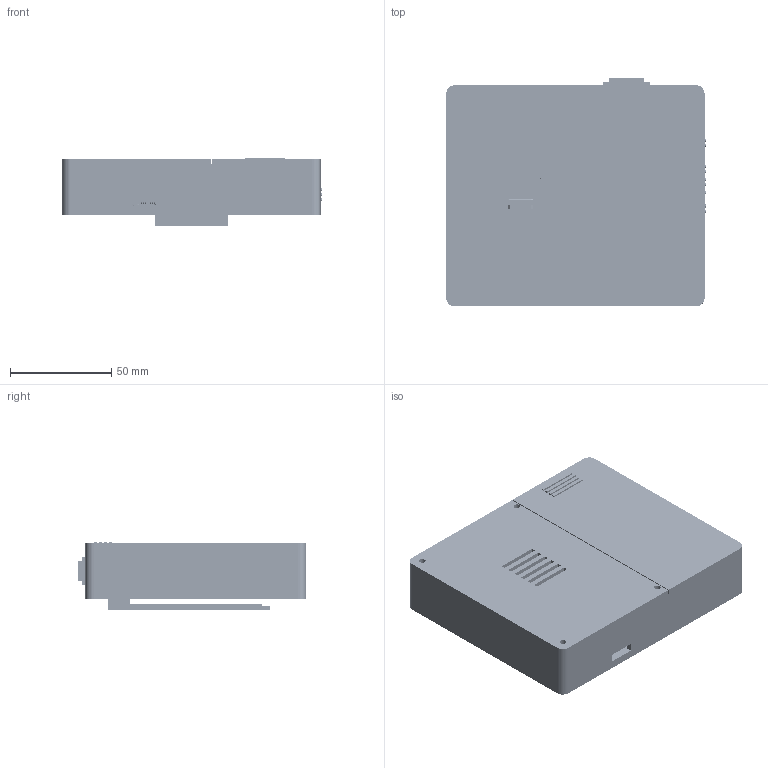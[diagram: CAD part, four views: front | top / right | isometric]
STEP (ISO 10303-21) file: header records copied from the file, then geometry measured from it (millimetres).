
FILE_DESCRIPTION(/* description */ (''),/* implementation_level */ '2;1');
FILE_NAME(/* name */ 'enclosure_full_assembly.step',/* time_stamp */ '2026-10-19T22:49:07+07:00',/* author */ (''),/* organization */ (''),/* preprocessor_version */ 'ST-DEVELOPER v20.2',/* originating_system */ 'Autodesk Translation Framework v15.15.0.0',/* authorisation */ '');
FILE_SCHEMA (('AUTOMOTIVE_DESIGN { 1 0 10303 214 3 1 1 }'));
Products named in the file (9): Raspberry Pi 4 Model B; Enclosure_Base; Enclosure_Pi_Lid; Battery_Snap_Door; Mockup_18650_Tray; Mockup_Switch; Mockup_2S_Charger; Mockup_HW298; Mockup_USB_Cable
Assembly tree (8 placements, depth 2):
  Raspberry Pi 4 Model B
    Enclosure_Base
    Enclosure_Pi_Lid
    Battery_Snap_Door
    Mockup_18650_Tray
    Mockup_Switch
    Mockup_2S_Charger
    Mockup_HW298
    Mockup_USB_Cable
Bounding box: 128.1 x 112.8 x 33.8 mm (x, y, z)
Volume: 183110.1 mm3; surface area: 143598.7 mm2
Topology: 33 solids, 66 shells, 18074 faces, 50639 edges, 33229 vertices
Faces by surface type: plane 12478, bspline 3076, cylinder 2464, cone 33, sphere 16, torus 7
Full cylindrical faces by diameter (mm): 0.2 x2, 0.3 x2, 0.5 x3, 0.8 x1, 0.9 x8, 0.95 x2, 1 x52, 1.02 x4, 1.2 x4, 1.3 x1, 1.5 x32, 1.6 x95, 1.62 x6, 1.9 x2, 2 x4, 2.1 x8, 2.2 x8, 2.4 x2, 2.7 x4, 3.2 x14, 3.4 x2, 3.6 x1, 4.4 x1, 6 x13, 7 x2, 9 x2, 18.4 x2
Entity records: 616364 total; most frequent: CARTESIAN_POINT 147659, ORIENTED_EDGE 101272, DIRECTION 79558, EDGE_CURVE 50636, LINE 39298, VECTOR 39298, VERTEX_POINT 33228, AXIS2_PLACEMENT_3D 20130
